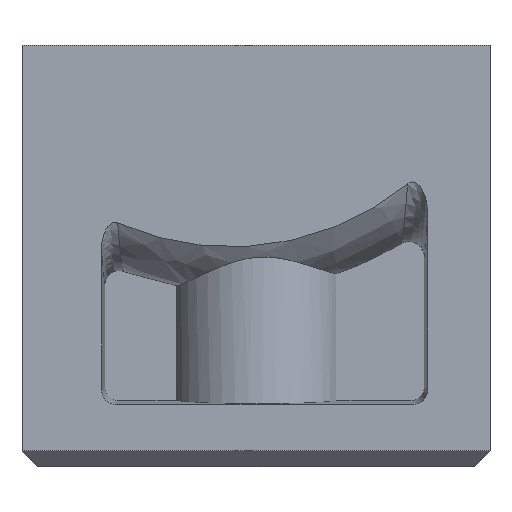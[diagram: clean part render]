
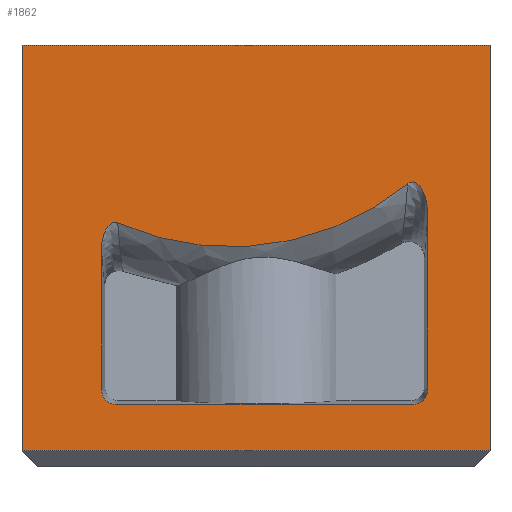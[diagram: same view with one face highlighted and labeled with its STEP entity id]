
A CAD part, left-side view. The second image highlights one B-rep face of the part: STEP entity #1862.
In plain terms, the highlighted planar face has unit normal (-1, 0, 0).
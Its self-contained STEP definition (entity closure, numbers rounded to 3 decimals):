
#118=DIRECTION('',(0.,1.,0.));
#119=VECTOR('',#118,30.);
#120=CARTESIAN_POINT('',(-6.,-27.2,-21.5));
#121=LINE('',#120,#119);
#122=DIRECTION('',(0.,0.,-1.));
#123=VECTOR('',#122,26.);
#124=CARTESIAN_POINT('',(-6.,-27.2,4.5));
#125=LINE('',#124,#123);
#126=CARTESIAN_POINT('',(-6.,-3.334,
-6.873));
#127=CARTESIAN_POINT('',(-6.,-3.31,
-6.862));
#128=CARTESIAN_POINT('',(-6.,-3.261,
-6.845));
#129=CARTESIAN_POINT('',(-6.,-3.192,
-6.833));
#130=CARTESIAN_POINT('',(-6.,-3.124,
-6.833));
#131=CARTESIAN_POINT('',(-6.,-3.055,
-6.846));
#132=CARTESIAN_POINT('',(-6.,-2.985,
-6.871));
#133=CARTESIAN_POINT('',(-6.,-2.913,
-6.911));
#134=CARTESIAN_POINT('',(-6.,-2.837,
-6.968));
#135=CARTESIAN_POINT('',(-6.,-2.761,
-7.044));
#136=CARTESIAN_POINT('',(-6.,-2.684,
-7.139));
#137=CARTESIAN_POINT('',(-6.,-2.61,
-7.253));
#138=CARTESIAN_POINT('',(-6.,-2.537,
-7.39));
#139=CARTESIAN_POINT('',(-6.,-2.467,
-7.55));
#140=CARTESIAN_POINT('',(-6.,-2.404,
-7.735));
#141=CARTESIAN_POINT('',(-6.,-2.348,
-7.955));
#142=CARTESIAN_POINT('',(-6.,-2.31,
-8.203));
#143=CARTESIAN_POINT('',(-6.,-2.3,
-8.374));
#144=CARTESIAN_POINT('',(-6.,-2.3,
-8.463));
#146=DIRECTION('',(0.,0.,-1.));
#147=VECTOR('',#146,9.138);
#148=CARTESIAN_POINT('',(-6.,-2.3,
-8.463));
#149=LINE('',#148,#147);
#150=DIRECTION('',(0.,-1.,0.));
#151=VECTOR('',#150,19.102);
#152=CARTESIAN_POINT('',(-6.,-3.199,
-18.5));
#153=LINE('',#152,#151);
#154=DIRECTION('',(0.,0.,1.));
#155=VECTOR('',#154,11.379);
#156=CARTESIAN_POINT('',(-6.,-23.2,
-17.601));
#157=LINE('',#156,#155);
#162=DIRECTION('',(0.,0.,-1.));
#163=VECTOR('',#162,26.);
#164=CARTESIAN_POINT('',(-6.,2.8,4.5));
#165=LINE('',#164,#163);
#252=DIRECTION('',(0.,1.,0.));
#253=VECTOR('',#252,30.);
#254=CARTESIAN_POINT('',(-6.,-27.2,4.5));
#255=LINE('',#254,#253);
#1242=CARTESIAN_POINT('',(-6.,-3.334,
-6.873));
#1243=CARTESIAN_POINT('',(-6.,-4.002,
-7.171));
#1244=CARTESIAN_POINT('',(-6.,-5.363,
-7.681));
#1245=CARTESIAN_POINT('',(-6.,-7.486,
-8.191));
#1246=CARTESIAN_POINT('',(-6.,-9.669,
-8.438));
#1247=CARTESIAN_POINT('',(-6.,-11.842,
-8.416));
#1248=CARTESIAN_POINT('',(-6.,-14.005,
-8.133));
#1249=CARTESIAN_POINT('',(-6.,-16.154,
-7.576));
#1250=CARTESIAN_POINT('',(-6.,-18.199,
-6.768));
#1251=CARTESIAN_POINT('',(-6.,-20.145,
-5.71));
#1252=CARTESIAN_POINT('',(-6.,-21.347,
-4.852));
#1253=CARTESIAN_POINT('',(-6.,-21.925,
-4.383));
#1282=CARTESIAN_POINT('',(-6.,-21.925,
-4.383));
#1283=CARTESIAN_POINT('',(-6.,-21.952,
-4.361));
#1284=CARTESIAN_POINT('',(-6.,-22.005,
-4.324));
#1285=CARTESIAN_POINT('',(-6.,-22.08,
-4.286));
#1286=CARTESIAN_POINT('',(-6.,-22.152,
-4.262));
#1287=CARTESIAN_POINT('',(-6.,-22.221,
-4.252));
#1288=CARTESIAN_POINT('',(-6.,-22.288,
-4.253));
#1289=CARTESIAN_POINT('',(-6.,-22.356,
-4.266));
#1290=CARTESIAN_POINT('',(-6.,-22.427,
-4.292));
#1291=CARTESIAN_POINT('',(-6.,-22.501,
-4.334));
#1292=CARTESIAN_POINT('',(-6.,-22.578,
-4.393));
#1293=CARTESIAN_POINT('',(-6.,-22.656,
-4.471));
#1294=CARTESIAN_POINT('',(-6.,-22.734,
-4.568));
#1295=CARTESIAN_POINT('',(-6.,-22.811,
-4.685));
#1296=CARTESIAN_POINT('',(-6.,-22.887,
-4.823));
#1297=CARTESIAN_POINT('',(-6.,-22.96,
-4.983));
#1298=CARTESIAN_POINT('',(-6.,-23.03,
-5.17));
#1299=CARTESIAN_POINT('',(-6.,-23.094,
-5.383));
#1300=CARTESIAN_POINT('',(-6.,-23.15,
-5.632));
#1301=CARTESIAN_POINT('',(-6.,-23.19,
-5.916));
#1302=CARTESIAN_POINT('',(-6.,-23.2,
-6.117));
#1303=CARTESIAN_POINT('',(-6.,-23.2,
-6.222));
#1334=CARTESIAN_POINT('',(-6.,-23.2,
-17.601));
#1335=CARTESIAN_POINT('',(-6.,-23.2,
-17.682));
#1336=CARTESIAN_POINT('',(-6.,-23.179,
-17.836));
#1337=CARTESIAN_POINT('',(-6.,-23.089,
-18.056));
#1338=CARTESIAN_POINT('',(-6.,-22.944,
-18.244));
#1339=CARTESIAN_POINT('',(-6.,-22.756,
-18.389));
#1340=CARTESIAN_POINT('',(-6.,-22.536,
-18.479));
#1341=CARTESIAN_POINT('',(-6.,-22.382,
-18.5));
#1342=CARTESIAN_POINT('',(-6.,-22.301,
-18.5));
#1370=CARTESIAN_POINT('',(-6.,-3.199,
-18.5));
#1371=CARTESIAN_POINT('',(-6.,-3.118,
-18.5));
#1372=CARTESIAN_POINT('',(-6.,-2.964,
-18.479));
#1373=CARTESIAN_POINT('',(-6.,-2.744,
-18.389));
#1374=CARTESIAN_POINT('',(-6.,-2.556,
-18.244));
#1375=CARTESIAN_POINT('',(-6.,-2.411,
-18.056));
#1376=CARTESIAN_POINT('',(-6.,-2.321,
-17.836));
#1377=CARTESIAN_POINT('',(-6.,-2.3,
-17.682));
#1378=CARTESIAN_POINT('',(-6.,-2.3,
-17.601));
#1531=CARTESIAN_POINT('',(-6.,2.8,-21.5));
#1532=VERTEX_POINT('',#1531);
#1535=CARTESIAN_POINT('',(-6.,-27.2,-21.5));
#1536=VERTEX_POINT('',#1535);
#1537=CARTESIAN_POINT('',(-6.,2.8,4.5));
#1538=VERTEX_POINT('',#1537);
#1539=CARTESIAN_POINT('',(-6.,-27.2,4.5));
#1540=VERTEX_POINT('',#1539);
#1541=VERTEX_POINT('',#1242);
#1542=VERTEX_POINT('',#1253);
#1543=VERTEX_POINT('',#144);
#1544=CARTESIAN_POINT('',(-6.,-2.3,
-17.601));
#1545=VERTEX_POINT('',#1544);
#1546=VERTEX_POINT('',#1370);
#1547=CARTESIAN_POINT('',(-6.,-22.301,
-18.5));
#1548=VERTEX_POINT('',#1547);
#1549=VERTEX_POINT('',#1334);
#1550=CARTESIAN_POINT('',(-6.,-23.2,
-6.222));
#1551=VERTEX_POINT('',#1550);
#1830=CARTESIAN_POINT('',(-6.,2.8,-22.5));
#1831=DIRECTION('',(-1.,0.,0.));
#1832=DIRECTION('',(0.,-1.,0.));
#1833=AXIS2_PLACEMENT_3D('',#1830,#1831,#1832);
#1834=PLANE('',#1833);
#1835=ORIENTED_EDGE('',*,*,#1824,.T.);
#1837=ORIENTED_EDGE('',*,*,#1836,.F.);
#1839=ORIENTED_EDGE('',*,*,#1838,.F.);
#1841=ORIENTED_EDGE('',*,*,#1840,.T.);
#1842=EDGE_LOOP('',(#1835,#1837,#1839,#1841));
#1843=FACE_OUTER_BOUND('',#1842,.F.);
#1845=ORIENTED_EDGE('',*,*,#1844,.F.);
#1847=ORIENTED_EDGE('',*,*,#1846,.T.);
#1849=ORIENTED_EDGE('',*,*,#1848,.T.);
#1851=ORIENTED_EDGE('',*,*,#1850,.F.);
#1853=ORIENTED_EDGE('',*,*,#1852,.T.);
#1855=ORIENTED_EDGE('',*,*,#1854,.F.);
#1857=ORIENTED_EDGE('',*,*,#1856,.T.);
#1859=ORIENTED_EDGE('',*,*,#1858,.F.);
#1860=EDGE_LOOP('',(#1845,#1847,#1849,#1851,#1853,#1855,#1857,#1859));
#1861=FACE_BOUND('',#1860,.F.);
#1862=ADVANCED_FACE('',(#1843,#1861),#1834,.T.);
#145=B_SPLINE_CURVE_WITH_KNOTS('',3,(#126,#127,#128,#129,#130,#131,#132,#133,
#134,#135,#136,#137,#138,#139,#140,#141,#142,#143,#144),.UNSPECIFIED.,.F.,.F.,
(4,1,1,1,1,1,1,1,1,1,1,1,1,1,1,1,4),(0.,0.063,0.125,0.188,0.25,
0.313,0.375,0.438,0.5,0.563,0.625,0.688,0.75,0.813,
0.875,0.938,1.),.UNSPECIFIED.);
#1254=B_SPLINE_CURVE_WITH_KNOTS('',3,(#1242,#1243,#1244,#1245,#1246,#1247,#1248,
#1249,#1250,#1251,#1252,#1253),.UNSPECIFIED.,.F.,.F.,(4,1,1,1,1,1,1,1,1,4),
(0.,0.111,0.222,0.333,0.444,
0.556,0.667,0.778,0.889,1.),
.UNSPECIFIED.);
#1304=B_SPLINE_CURVE_WITH_KNOTS('',3,(#1282,#1283,#1284,#1285,#1286,#1287,#1288,
#1289,#1290,#1291,#1292,#1293,#1294,#1295,#1296,#1297,#1298,#1299,#1300,#1301,
#1302,#1303),.UNSPECIFIED.,.F.,.F.,(4,1,1,1,1,1,1,1,1,1,1,1,1,1,1,1,1,1,1,4),(
0.,0.053,0.105,0.158,0.211,
0.263,0.316,0.368,0.421,
0.474,0.526,0.579,0.632,
0.684,0.737,0.789,0.842,
0.895,0.947,1.),.UNSPECIFIED.);
#1343=B_SPLINE_CURVE_WITH_KNOTS('',3,(#1334,#1335,#1336,#1337,#1338,#1339,#1340,
#1341,#1342),.UNSPECIFIED.,.F.,.F.,(4,1,1,1,1,1,4),(0.,0.167,
0.333,0.5,0.667,0.833,1.),
.UNSPECIFIED.);
#1379=B_SPLINE_CURVE_WITH_KNOTS('',3,(#1370,#1371,#1372,#1373,#1374,#1375,#1376,
#1377,#1378),.UNSPECIFIED.,.F.,.F.,(4,1,1,1,1,1,4),(0.,0.167,
0.333,0.5,0.667,0.833,1.),
.UNSPECIFIED.);
#1824=EDGE_CURVE('',#1536,#1532,#121,.T.);
#1836=EDGE_CURVE('',#1538,#1532,#165,.T.);
#1838=EDGE_CURVE('',#1540,#1538,#255,.T.);
#1840=EDGE_CURVE('',#1540,#1536,#125,.T.);
#1844=EDGE_CURVE('',#1541,#1542,#1254,.T.);
#1846=EDGE_CURVE('',#1541,#1543,#145,.T.);
#1848=EDGE_CURVE('',#1543,#1545,#149,.T.);
#1850=EDGE_CURVE('',#1546,#1545,#1379,.T.);
#1852=EDGE_CURVE('',#1546,#1548,#153,.T.);
#1854=EDGE_CURVE('',#1549,#1548,#1343,.T.);
#1856=EDGE_CURVE('',#1549,#1551,#157,.T.);
#1858=EDGE_CURVE('',#1542,#1551,#1304,.T.);
